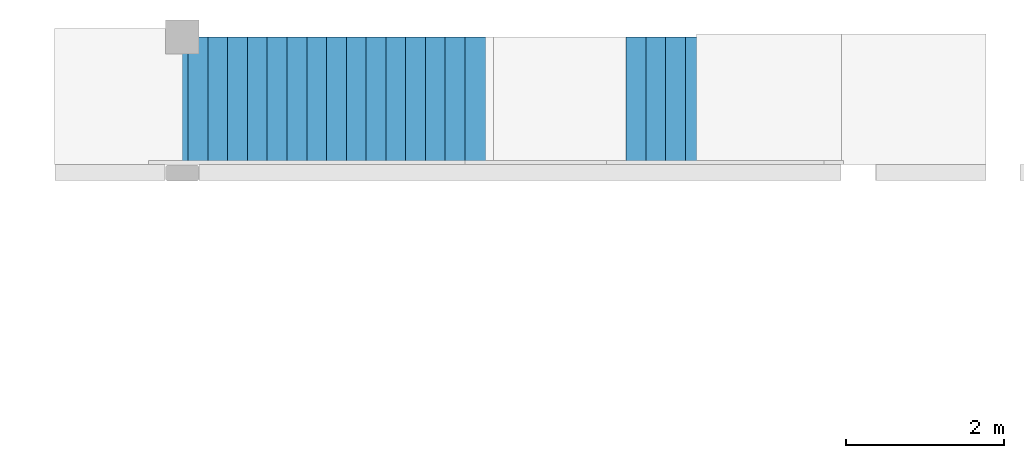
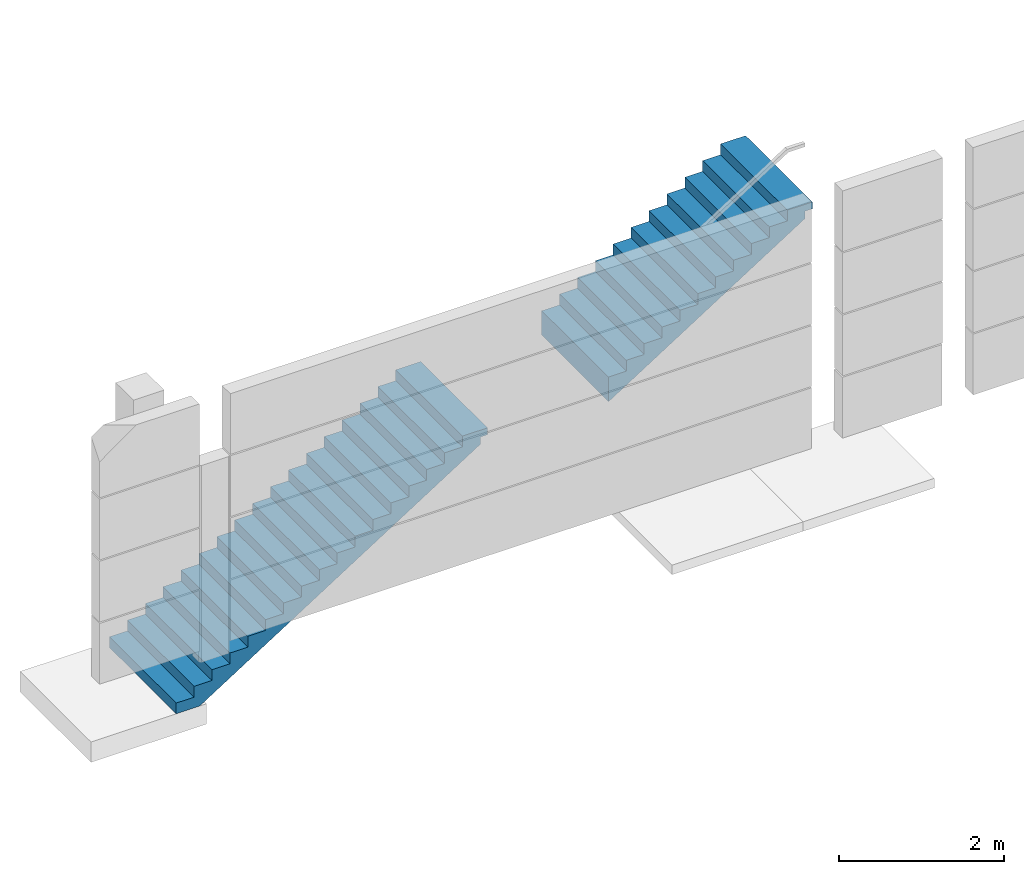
# One storey, part 3 of 5: 2 stair flights, 1 element without a shape of its own.
"""IFC2X3 building model written with IfcOpenShell, lengths in millimetres."""

from ifc_helpers import new_model, entity, si_unit, converted_unit, derived_unit, direction, frame, origin, place, context, subcontext, project, spatial, faceted_brep, material, type_object, element, aggregate, save


model = new_model("IFC2X3")

# Units and contexts
model_context = context("Model", 3, precision=0.01, world=origin(), true_north=direction((6.12303176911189e-17, 1.0)))
body_context = subcontext(model_context, "Body", "Model", "MODEL_VIEW")
ifc_project = project(units=[si_unit("LENGTHUNIT", "METRE", prefix="MILLI"), si_unit("AREAUNIT", "SQUARE_METRE"), si_unit("VOLUMEUNIT", "CUBIC_METRE"), converted_unit("PLANEANGLEUNIT", "DEGREE", entity("IfcRatioMeasure", 0.0174532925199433), si_unit("PLANEANGLEUNIT", "RADIAN"), dimensions=[0, 0, 0, 0, 0, 0, 0]), si_unit("MASSUNIT", "GRAM", prefix="KILO"), derived_unit("MASSDENSITYUNIT", [(si_unit("MASSUNIT", "GRAM", prefix="KILO"), 1), (si_unit("LENGTHUNIT", "METRE"), -3)]), derived_unit("MOMENTOFINERTIAUNIT", [(si_unit("LENGTHUNIT", "METRE"), 4)]), si_unit("TIMEUNIT", "SECOND"), si_unit("FREQUENCYUNIT", "HERTZ"), si_unit("THERMODYNAMICTEMPERATUREUNIT", "DEGREE_CELSIUS"), derived_unit("THERMALTRANSMITTANCEUNIT", [(si_unit("MASSUNIT", "GRAM", prefix="KILO"), 1), (si_unit("THERMODYNAMICTEMPERATUREUNIT", "KELVIN"), -1), (si_unit("TIMEUNIT", "SECOND"), -3)]), derived_unit("VOLUMETRICFLOWRATEUNIT", [(si_unit("LENGTHUNIT", "METRE"), 3), (si_unit("TIMEUNIT", "SECOND"), -1)]), si_unit("ELECTRICCURRENTUNIT", "AMPERE"), si_unit("ELECTRICVOLTAGEUNIT", "VOLT"), si_unit("POWERUNIT", "WATT"), si_unit("FORCEUNIT", "NEWTON", prefix="KILO"), si_unit("ILLUMINANCEUNIT", "LUX"), si_unit("LUMINOUSFLUXUNIT", "LUMEN"), si_unit("LUMINOUSINTENSITYUNIT", "CANDELA"), derived_unit("USERDEFINED", [(si_unit("MASSUNIT", "GRAM", prefix="KILO"), -1), (si_unit("LENGTHUNIT", "METRE"), -2), (si_unit("TIMEUNIT", "SECOND"), 3), (si_unit("LUMINOUSFLUXUNIT", "LUMEN"), 1)]), derived_unit("LINEARVELOCITYUNIT", [(si_unit("LENGTHUNIT", "METRE"), 1), (si_unit("TIMEUNIT", "SECOND"), -1)]), si_unit("PRESSUREUNIT", "PASCAL"), derived_unit("USERDEFINED", [(si_unit("LENGTHUNIT", "METRE"), -2), (si_unit("MASSUNIT", "GRAM", prefix="KILO"), 1), (si_unit("TIMEUNIT", "SECOND"), -2)]), derived_unit("LINEARFORCEUNIT", [(si_unit("MASSUNIT", "GRAM", prefix="KILO"), 1), (si_unit("LENGTHUNIT", "METRE"), 1), (si_unit("TIMEUNIT", "SECOND"), -2), (si_unit("LENGTHUNIT", "METRE"), -1)]), derived_unit("PLANARFORCEUNIT", [(si_unit("MASSUNIT", "GRAM", prefix="KILO"), 1), (si_unit("LENGTHUNIT", "METRE"), 1), (si_unit("TIMEUNIT", "SECOND"), -2), (si_unit("LENGTHUNIT", "METRE"), -2)])], contexts=[model_context])

# Site, building, storey
site_placement = place(None, frame((10627.5135316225, 21939.0796949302, 0.0)))
site = spatial("IfcSite", under=ifc_project, at=site_placement, Name="Default", CompositionType="ELEMENT")
building_placement = place(site_placement, origin())
building = spatial("IfcBuilding", under=site, at=building_placement, CompositionType="ELEMENT")
storey_placement = place(building_placement, origin())
storey = spatial("IfcBuildingStorey", under=building, at=storey_placement, Name="RDC", CompositionType="ELEMENT", Elevation=0.0)

# Stair, stair flights
stair_placement = place(storey_placement, origin())
stair = element("IfcStair", 1, at=stair_placement, inside=storey, Name="Precast Stair:Stair", ObjectType="Precast Stair:Precast_Stair", ShapeType="TWO_STRAIGHT_RUN_STAIR")
ifc_material = material(Name="Concrete, Cast-in-Place gray")
stair_flight_type_1 = type_object("IfcStairFlightType", Name="Monolithic Run:1mm_Tread-175mm_Depth", PredefinedType="STRAIGHT")
stair_flight_1_placement = place(stair_placement, frame((-9222.51353162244, 16695.9203050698, 0.0)))
stair_flight_1 = element("IfcStairFlight", 2, at=stair_flight_1_placement, type_object=stair_flight_type_1, material=ifc_material, Name="Precast Stair:Stair:490853 Run 1", ObjectType="Monolithic Run:1mm_Tread-175mm_Depth", NumberOfRiser=17, NumberOfTreads=17, RiserHeight=0.521540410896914, TreadLength=0.820209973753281, context=body_context, shape_type="Brep", body=[
    faceted_brep([(250.0, 1615.0, -641.034482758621), (0.0, 1615.0, -641.034482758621), (0.0, 0.0, -641.034482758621), (250.0, 0.0, -641.034482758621), (250.0, 1615.0, -642.034482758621), (250.0, 0.0, -642.034482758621), (0.0, 0.0, -642.034482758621), (0.0, 1615.0, -642.034482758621)], [[[0, 1, 2, 3]], [[4, 5, 6, 7]], [[1, 0, 4, 7]], [[2, 1, 7, 6]], [[3, 2, 6, 5]], [[0, 3, 5, 4]]]),
    faceted_brep([(500.0, 1615.0, -482.068965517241), (250.0, 1615.0, -482.068965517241), (250.0, 0.0, -482.068965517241), (500.0, 0.0, -482.068965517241), (500.0, 1615.0, -483.068965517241), (500.0, 0.0, -483.068965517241), (250.0, 0.0, -483.068965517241), (250.0, 1615.0, -483.068965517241)], [[[0, 1, 2, 3]], [[4, 5, 6, 7]], [[1, 0, 4, 7]], [[2, 1, 7, 6]], [[3, 2, 6, 5]], [[0, 3, 5, 4]]]),
    faceted_brep([(750.0, 1615.0, -323.103448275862), (500.0, 1615.0, -323.103448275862), (500.0, 0.0, -323.103448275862), (750.0, 0.0, -323.103448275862), (750.0, 1615.0, -324.103448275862), (750.0, 0.0, -324.103448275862), (500.0, 0.0, -324.103448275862), (500.0, 1615.0, -324.103448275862)], [[[0, 1, 2, 3]], [[4, 5, 6, 7]], [[1, 0, 4, 7]], [[2, 1, 7, 6]], [[3, 2, 6, 5]], [[0, 3, 5, 4]]]),
    faceted_brep([(1000.0, 1615.0, -164.137931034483), (750.0, 1615.0, -164.137931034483), (750.0, 0.0, -164.137931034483), (1000.0, 0.0, -164.137931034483), (1000.0, 1615.0, -165.137931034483), (1000.0, 0.0, -165.137931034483), (750.0, 0.0, -165.137931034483), (750.0, 1615.0, -165.137931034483)], [[[0, 1, 2, 3]], [[4, 5, 6, 7]], [[1, 0, 4, 7]], [[2, 1, 7, 6]], [[3, 2, 6, 5]], [[0, 3, 5, 4]]]),
    faceted_brep([(1250.0, 1615.0, -5.17241379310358), (1000.0, 1615.0, -5.17241379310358), (1000.0, 0.0, -5.17241379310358), (1250.0, 0.0, -5.17241379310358), (1250.0, 1615.0, -6.17241379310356), (1250.0, 0.0, -6.17241379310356), (1000.0, 0.0, -6.17241379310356), (1000.0, 1615.0, -6.17241379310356)], [[[0, 1, 2, 3]], [[4, 5, 6, 7]], [[1, 0, 4, 7]], [[2, 1, 7, 6]], [[3, 2, 6, 5]], [[0, 3, 5, 4]]]),
    faceted_brep([(1500.0, 1615.0, 153.793103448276), (1250.0, 1615.0, 153.793103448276), (1250.0, 0.0, 153.793103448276), (1500.0, 0.0, 153.793103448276), (1500.0, 1615.0, 152.793103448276), (1500.0, 0.0, 152.793103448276), (1250.0, 0.0, 152.793103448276), (1250.0, 1615.0, 152.793103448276)], [[[0, 1, 2, 3]], [[4, 5, 6, 7]], [[1, 0, 4, 7]], [[2, 1, 7, 6]], [[3, 2, 6, 5]], [[0, 3, 5, 4]]]),
    faceted_brep([(1750.0, 1615.0, 312.758620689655), (1500.0, 1615.0, 312.758620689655), (1500.0, 0.0, 312.758620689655), (1750.0, 0.0, 312.758620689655), (1750.0, 1615.0, 311.758620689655), (1750.0, 0.0, 311.758620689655), (1500.0, 0.0, 311.758620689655), (1500.0, 1615.0, 311.758620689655)], [[[0, 1, 2, 3]], [[4, 5, 6, 7]], [[1, 0, 4, 7]], [[2, 1, 7, 6]], [[3, 2, 6, 5]], [[0, 3, 5, 4]]]),
    faceted_brep([(2000.0, 1615.0, 471.724137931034), (1750.0, 1615.0, 471.724137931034), (1750.0, 0.0, 471.724137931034), (2000.0, 0.0, 471.724137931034), (2000.0, 1615.0, 470.724137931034), (2000.0, 0.0, 470.724137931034), (1750.0, 0.0, 470.724137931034), (1750.0, 1615.0, 470.724137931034)], [[[0, 1, 2, 3]], [[4, 5, 6, 7]], [[1, 0, 4, 7]], [[2, 1, 7, 6]], [[3, 2, 6, 5]], [[0, 3, 5, 4]]]),
    faceted_brep([(2250.0, 1615.0, 630.689655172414), (2000.0, 1615.0, 630.689655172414), (2000.0, 0.0, 630.689655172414), (2250.0, 0.0, 630.689655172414), (2250.0, 1615.0, 629.689655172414), (2250.0, 0.0, 629.689655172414), (2000.0, 0.0, 629.689655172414), (2000.0, 1615.0, 629.689655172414)], [[[0, 1, 2, 3]], [[4, 5, 6, 7]], [[1, 0, 4, 7]], [[2, 1, 7, 6]], [[3, 2, 6, 5]], [[0, 3, 5, 4]]]),
    faceted_brep([(2500.0, 1615.0, 789.655172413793), (2250.0, 1615.0, 789.655172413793), (2250.0, 0.0, 789.655172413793), (2500.0, 0.0, 789.655172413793), (2500.0, 1615.0, 788.655172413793), (2500.0, 0.0, 788.655172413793), (2250.0, 0.0, 788.655172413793), (2250.0, 1615.0, 788.655172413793)], [[[0, 1, 2, 3]], [[4, 5, 6, 7]], [[1, 0, 4, 7]], [[2, 1, 7, 6]], [[3, 2, 6, 5]], [[0, 3, 5, 4]]]),
    faceted_brep([(2750.0, 1615.0, 948.620689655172), (2500.0, 1615.0, 948.620689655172), (2500.0, 0.0, 948.620689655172), (2750.0, 0.0, 948.620689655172), (2750.0, 1615.0, 947.620689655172), (2750.0, 0.0, 947.620689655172), (2500.0, 0.0, 947.620689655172), (2500.0, 1615.0, 947.620689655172)], [[[0, 1, 2, 3]], [[4, 5, 6, 7]], [[1, 0, 4, 7]], [[2, 1, 7, 6]], [[3, 2, 6, 5]], [[0, 3, 5, 4]]]),
    faceted_brep([(3000.0, 1615.0, 1107.58620689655), (2750.0, 1615.0, 1107.58620689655), (2750.0, 0.0, 1107.58620689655), (3000.0, 0.0, 1107.58620689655), (3000.0, 1615.0, 1106.58620689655), (3000.0, 0.0, 1106.58620689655), (2750.0, 0.0, 1106.58620689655), (2750.0, 1615.0, 1106.58620689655)], [[[0, 1, 2, 3]], [[4, 5, 6, 7]], [[1, 0, 4, 7]], [[2, 1, 7, 6]], [[3, 2, 6, 5]], [[0, 3, 5, 4]]]),
    faceted_brep([(3250.0, 1615.0, 1266.55172413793), (3000.0, 1615.0, 1266.55172413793), (3000.0, 0.0, 1266.55172413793), (3250.0, 0.0, 1266.55172413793), (3250.0, 1615.0, 1265.55172413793), (3250.0, 0.0, 1265.55172413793), (3000.0, 0.0, 1265.55172413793), (3000.0, 1615.0, 1265.55172413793)], [[[0, 1, 2, 3]], [[4, 5, 6, 7]], [[1, 0, 4, 7]], [[2, 1, 7, 6]], [[3, 2, 6, 5]], [[0, 3, 5, 4]]]),
    faceted_brep([(3500.0, 1615.0, 1425.51724137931), (3250.0, 1615.0, 1425.51724137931), (3250.0, 0.0, 1425.51724137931), (3500.0, 0.0, 1425.51724137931), (3500.0, 1615.0, 1424.51724137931), (3500.0, 0.0, 1424.51724137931), (3250.0, 0.0, 1424.51724137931), (3250.0, 1615.0, 1424.51724137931)], [[[0, 1, 2, 3]], [[4, 5, 6, 7]], [[1, 0, 4, 7]], [[2, 1, 7, 6]], [[3, 2, 6, 5]], [[0, 3, 5, 4]]]),
    faceted_brep([(3750.0, 1615.0, 1584.48275862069), (3500.0, 1615.0, 1584.48275862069), (3500.0, 0.0, 1584.48275862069), (3750.0, 0.0, 1584.48275862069), (3750.0, 1615.0, 1583.48275862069), (3750.0, 0.0, 1583.48275862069), (3500.0, 0.0, 1583.48275862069), (3500.0, 1615.0, 1583.48275862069)], [[[0, 1, 2, 3]], [[4, 5, 6, 7]], [[1, 0, 4, 7]], [[2, 1, 7, 6]], [[3, 2, 6, 5]], [[0, 3, 5, 4]]]),
    faceted_brep([(4000.0, 1615.0, 1743.44827586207), (3750.0, 1615.0, 1743.44827586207), (3750.0, 0.0, 1743.44827586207), (4000.0, 0.0, 1743.44827586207), (4000.0, 1615.0, 1742.44827586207), (4000.0, 0.0, 1742.44827586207), (3750.0, 0.0, 1742.44827586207), (3750.0, 1615.0, 1742.44827586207)], [[[0, 1, 2, 3]], [[4, 5, 6, 7]], [[1, 0, 4, 7]], [[2, 1, 7, 6]], [[3, 2, 6, 5]], [[0, 3, 5, 4]]]),
    faceted_brep([(4350.0, 1615.0, 1902.41379310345), (4250.0, 1615.0, 1902.41379310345), (4000.0, 1615.0, 1902.41379310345), (4000.0, 0.0, 1902.41379310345), (4250.0, 0.0, 1902.41379310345), (4350.0, 0.0, 1902.41379310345), (4350.0, 1615.0, 1901.41379310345), (4350.0, 0.0, 1901.41379310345), (4250.0, 0.0, 1901.41379310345), (4000.0, 0.0, 1901.41379310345), (4000.0, 1615.0, 1901.41379310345), (4250.0, 1615.0, 1901.41379310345)], [[[0, 1, 2, 3, 4, 5]], [[6, 7, 8, 9, 10, 11]], [[1, 0, 6, 11]], [[2, 1, 11, 10]], [[3, 2, 10, 9]], [[4, 3, 9, 8]], [[5, 4, 8, 7]], [[0, 5, 7, 6]]]),
    faceted_brep([(250.0, 1615.0, -642.034482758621), (0.0, 1615.0, -642.034482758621), (0.0, 0.0, -642.034482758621), (250.0, 0.0, -642.034482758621), (250.0, 1615.0, -800.0), (0.0, 1615.0, -800.0), (0.0, 0.0, -800.0), (250.0, 0.0, -800.0), (500.0, 1615.0, -483.068965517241), (250.0, 1615.0, -483.068965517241), (250.0, 0.0, -483.068965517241), (500.0, 0.0, -483.068965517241), (500.0, 1615.0, -690.451022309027), (327.715815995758, 1615.0, -800.0), (327.715815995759, 0.0, -800.0), (500.0, 0.0, -690.451022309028), (750.0, 1615.0, -324.103448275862), (500.0, 1615.0, -324.103448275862), (500.0, 0.0, -324.103448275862), (750.0, 0.0, -324.103448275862), (750.0, 1615.0, -531.485505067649), (750.0, 0.0, -531.485505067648), (1000.0, 1615.0, -165.137931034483), (750.0, 1615.0, -165.137931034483), (750.0, 0.0, -165.137931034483), (1000.0, 0.0, -165.137931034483), (1000.0, 1615.0, -372.519987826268), (1000.0, 0.0, -372.519987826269), (1250.0, 1615.0, -6.17241379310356), (1000.0, 1615.0, -6.17241379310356), (1000.0, 0.0, -6.17241379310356), (1250.0, 0.0, -6.17241379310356), (1250.0, 1615.0, -213.55447058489), (1250.0, 0.0, -213.55447058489), (1500.0, 1615.0, 152.793103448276), (1250.0, 1615.0, 152.793103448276), (1250.0, 0.0, 152.793103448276), (1500.0, 0.0, 152.793103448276), (1500.0, 1615.0, -54.58895334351), (1500.0, 0.0, -54.5889533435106), (1750.0, 1615.0, 311.758620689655), (1500.0, 1615.0, 311.758620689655), (1500.0, 0.0, 311.758620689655), (1750.0, 0.0, 311.758620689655), (1750.0, 1615.0, 104.37656389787), (1750.0, 0.0, 104.376563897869), (2000.0, 1615.0, 470.724137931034), (1750.0, 1615.0, 470.724137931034), (1750.0, 0.0, 470.724137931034), (2000.0, 0.0, 470.724137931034), (2000.0, 1615.0, 263.342081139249), (2000.0, 0.0, 263.342081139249), (2250.0, 1615.0, 629.689655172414), (2000.0, 1615.0, 629.689655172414), (2000.0, 0.0, 629.689655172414), (2250.0, 0.0, 629.689655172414), (2250.0, 1615.0, 422.307598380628), (2250.0, 0.0, 422.307598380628), (2500.0, 1615.0, 788.655172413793), (2250.0, 1615.0, 788.655172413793), (2250.0, 0.0, 788.655172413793), (2500.0, 0.0, 788.655172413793), (2500.0, 1615.0, 581.273115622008), (2500.0, 0.0, 581.273115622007), (2750.0, 1615.0, 947.620689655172), (2500.0, 1615.0, 947.620689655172), (2500.0, 0.0, 947.620689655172), (2750.0, 0.0, 947.620689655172), (2750.0, 1615.0, 740.238632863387), (2750.0, 0.0, 740.238632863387), (3000.0, 1615.0, 1106.58620689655), (2750.0, 1615.0, 1106.58620689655), (2750.0, 0.0, 1106.58620689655), (3000.0, 0.0, 1106.58620689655), (3000.0, 1615.0, 899.204150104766), (3000.0, 0.0, 899.204150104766), (3250.0, 1615.0, 1265.55172413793), (3000.0, 1615.0, 1265.55172413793), (3000.0, 0.0, 1265.55172413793), (3250.0, 0.0, 1265.55172413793), (3250.0, 1615.0, 1058.16966734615), (3250.0, 0.0, 1058.16966734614), (3500.0, 1615.0, 1424.51724137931), (3250.0, 1615.0, 1424.51724137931), (3250.0, 0.0, 1424.51724137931), (3500.0, 0.0, 1424.51724137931), (3500.0, 1615.0, 1217.13518458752), (3500.0, 0.0, 1217.13518458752), (3750.0, 1615.0, 1583.48275862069), (3500.0, 1615.0, 1583.48275862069), (3500.0, 0.0, 1583.48275862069), (3750.0, 0.0, 1583.48275862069), (3750.0, 1615.0, 1376.1007018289), (3750.0, 0.0, 1376.1007018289), (4000.0, 1615.0, 1535.06621907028), (4250.0, 1615.0, 1694.03173631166), (4250.0, 0.0, 1694.03173631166), (4000.0, 0.0, 1535.06621907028), (4350.0, 0.0, 1801.41379310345), (4250.0, 0.0, 1801.41379310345), (4250.0, 1615.0, 1801.41379310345), (4350.0, 1615.0, 1801.41379310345), (4350.0, 1615.0, 1901.41379310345), (4350.0, 0.0, 1901.41379310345), (4000.0, 1615.0, 1742.44827586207), (3750.0, 1615.0, 1742.44827586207), (3750.0, 0.0, 1742.44827586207), (4000.0, 0.0, 1742.44827586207), (4000.0, 1615.0, 1901.41379310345), (4000.0, 0.0, 1901.41379310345)], [[[0, 1, 2, 3]], [[1, 0, 4, 5]], [[2, 1, 5, 6]], [[3, 2, 6, 7]], [[8, 9, 10, 11]], [[4, 0, 9, 8, 12, 13]], [[0, 3, 10, 9]], [[3, 7, 14, 15, 11, 10]], [[16, 17, 18, 19]], [[17, 16, 20, 12, 8]], [[8, 11, 18, 17]], [[19, 18, 11, 15, 21]], [[22, 23, 24, 25]], [[23, 22, 26, 20, 16]], [[16, 19, 24, 23]], [[25, 24, 19, 21, 27]], [[28, 29, 30, 31]], [[29, 28, 32, 26, 22]], [[22, 25, 30, 29]], [[31, 30, 25, 27, 33]], [[34, 35, 36, 37]], [[35, 34, 38, 32, 28]], [[28, 31, 36, 35]], [[37, 36, 31, 33, 39]], [[40, 41, 42, 43]], [[41, 40, 44, 38, 34]], [[34, 37, 42, 41]], [[43, 42, 37, 39, 45]], [[46, 47, 48, 49]], [[47, 46, 50, 44, 40]], [[40, 43, 48, 47]], [[49, 48, 43, 45, 51]], [[52, 53, 54, 55]], [[53, 52, 56, 50, 46]], [[46, 49, 54, 53]], [[55, 54, 49, 51, 57]], [[58, 59, 60, 61]], [[59, 58, 62, 56, 52]], [[52, 55, 60, 59]], [[61, 60, 55, 57, 63]], [[64, 65, 66, 67]], [[65, 64, 68, 62, 58]], [[58, 61, 66, 65]], [[67, 66, 61, 63, 69]], [[70, 71, 72, 73]], [[71, 70, 74, 68, 64]], [[64, 67, 72, 71]], [[73, 72, 67, 69, 75]], [[76, 77, 78, 79]], [[77, 76, 80, 74, 70]], [[70, 73, 78, 77]], [[79, 78, 73, 75, 81]], [[82, 83, 84, 85]], [[83, 82, 86, 80, 76]], [[76, 79, 84, 83]], [[85, 84, 79, 81, 87]], [[88, 89, 90, 91]], [[89, 88, 92, 86, 82]], [[82, 85, 90, 89]], [[91, 90, 85, 87, 93]], [[5, 4, 13, 14, 7, 6]], [[14, 13, 12, 20, 26, 32, 38, 44, 50, 56, 62, 68, 74, 80, 86, 92, 94, 95, 96, 97, 93, 87, 81, 75, 69, 63, 57, 51, 45, 39, 33, 27, 21, 15]], [[98, 99, 100, 101]], [[98, 101, 102, 103]], [[104, 105, 106, 107]], [[105, 104, 94, 92, 88]], [[88, 91, 106, 105]], [[107, 106, 91, 93, 97]], [[108, 109, 103, 102]], [[108, 102, 101, 100, 95, 94, 104]], [[104, 107, 109, 108]], [[103, 109, 107, 97, 96, 99, 98]], [[96, 95, 100, 99]]]),
])
stair_flight_type_2 = type_object("IfcStairFlightType", Name="Monolithic Run:1mm_Tread-175mm_Depth", PredefinedType="STRAIGHT")
stair_flight_2_placement = place(stair_placement, frame((-3182.51353162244, 16695.9203050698, 0.0)))
stair_flight_2 = element("IfcStairFlight", 3, at=stair_flight_2_placement, type_object=stair_flight_type_2, material=ifc_material, Name="Precast Stair:Stair:490853 Run 2", ObjectType="Monolithic Run:1mm_Tread-175mm_Depth", NumberOfRiser=11, NumberOfTreads=11, RiserHeight=0.521540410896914, TreadLength=0.820209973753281, context=body_context, shape_type="Brep", body=[
    faceted_brep([(250.0, 1615.0, 2061.37931034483), (0.0, 1615.0, 2061.37931034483), (0.0, 0.0, 2061.37931034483), (250.0, 0.0, 2061.37931034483), (250.0, 1615.0, 2060.37931034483), (250.0, 0.0, 2060.37931034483), (0.0, 0.0, 2060.37931034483), (0.0, 1615.0, 2060.37931034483)], [[[0, 1, 2, 3]], [[4, 5, 6, 7]], [[1, 0, 4, 7]], [[2, 1, 7, 6]], [[3, 2, 6, 5]], [[0, 3, 5, 4]]]),
    faceted_brep([(500.0, 1615.0, 2220.34482758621), (250.0, 1615.0, 2220.34482758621), (250.0, 0.0, 2220.34482758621), (500.0, 0.0, 2220.34482758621), (500.0, 1615.0, 2219.34482758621), (500.0, 0.0, 2219.34482758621), (250.0, 0.0, 2219.34482758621), (250.0, 1615.0, 2219.34482758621)], [[[0, 1, 2, 3]], [[4, 5, 6, 7]], [[1, 0, 4, 7]], [[2, 1, 7, 6]], [[3, 2, 6, 5]], [[0, 3, 5, 4]]]),
    faceted_brep([(750.0, 1615.0, 2379.31034482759), (500.0, 1615.0, 2379.31034482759), (500.0, 0.0, 2379.31034482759), (750.0, 0.0, 2379.31034482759), (750.0, 1615.0, 2378.31034482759), (750.0, 0.0, 2378.31034482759), (500.0, 0.0, 2378.31034482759), (500.0, 1615.0, 2378.31034482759)], [[[0, 1, 2, 3]], [[4, 5, 6, 7]], [[1, 0, 4, 7]], [[2, 1, 7, 6]], [[3, 2, 6, 5]], [[0, 3, 5, 4]]]),
    faceted_brep([(1000.0, 1615.0, 2538.27586206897), (750.0, 1615.0, 2538.27586206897), (750.0, 0.0, 2538.27586206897), (1000.0, 0.0, 2538.27586206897), (1000.0, 1615.0, 2537.27586206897), (1000.0, 0.0, 2537.27586206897), (750.0, 0.0, 2537.27586206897), (750.0, 1615.0, 2537.27586206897)], [[[0, 1, 2, 3]], [[4, 5, 6, 7]], [[1, 0, 4, 7]], [[2, 1, 7, 6]], [[3, 2, 6, 5]], [[0, 3, 5, 4]]]),
    faceted_brep([(1250.0, 1615.0, 2697.24137931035), (1000.0, 1615.0, 2697.24137931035), (1000.0, 0.0, 2697.24137931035), (1250.0, 0.0, 2697.24137931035), (1250.0, 1615.0, 2696.24137931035), (1250.0, 0.0, 2696.24137931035), (1000.0, 0.0, 2696.24137931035), (1000.0, 1615.0, 2696.24137931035)], [[[0, 1, 2, 3]], [[4, 5, 6, 7]], [[1, 0, 4, 7]], [[2, 1, 7, 6]], [[3, 2, 6, 5]], [[0, 3, 5, 4]]]),
    faceted_brep([(1500.0, 1615.0, 2856.20689655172), (1250.0, 1615.0, 2856.20689655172), (1250.0, 0.0, 2856.20689655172), (1500.0, 0.0, 2856.20689655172), (1500.0, 1615.0, 2855.20689655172), (1500.0, 0.0, 2855.20689655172), (1250.0, 0.0, 2855.20689655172), (1250.0, 1615.0, 2855.20689655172)], [[[0, 1, 2, 3]], [[4, 5, 6, 7]], [[1, 0, 4, 7]], [[2, 1, 7, 6]], [[3, 2, 6, 5]], [[0, 3, 5, 4]]]),
    faceted_brep([(1750.0, 1615.0, 3015.1724137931), (1500.0, 1615.0, 3015.1724137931), (1500.0, 0.0, 3015.1724137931), (1750.0, 0.0, 3015.1724137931), (1750.0, 1615.0, 3014.1724137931), (1750.0, 0.0, 3014.1724137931), (1500.0, 0.0, 3014.1724137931), (1500.0, 1615.0, 3014.1724137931)], [[[0, 1, 2, 3]], [[4, 5, 6, 7]], [[1, 0, 4, 7]], [[2, 1, 7, 6]], [[3, 2, 6, 5]], [[0, 3, 5, 4]]]),
    faceted_brep([(2000.0, 1615.0, 3174.13793103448), (1750.0, 1615.0, 3174.13793103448), (1750.0, 0.0, 3174.13793103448), (2000.0, 0.0, 3174.13793103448), (2000.0, 1615.0, 3173.13793103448), (2000.0, 0.0, 3173.13793103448), (1750.0, 0.0, 3173.13793103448), (1750.0, 1615.0, 3173.13793103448)], [[[0, 1, 2, 3]], [[4, 5, 6, 7]], [[1, 0, 4, 7]], [[2, 1, 7, 6]], [[3, 2, 6, 5]], [[0, 3, 5, 4]]]),
    faceted_brep([(2250.0, 1615.0, 3333.10344827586), (2000.0, 1615.0, 3333.10344827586), (2000.0, 0.0, 3333.10344827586), (2250.0, 0.0, 3333.10344827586), (2250.0, 1615.0, 3332.10344827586), (2250.0, 0.0, 3332.10344827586), (2000.0, 0.0, 3332.10344827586), (2000.0, 1615.0, 3332.10344827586)], [[[0, 1, 2, 3]], [[4, 5, 6, 7]], [[1, 0, 4, 7]], [[2, 1, 7, 6]], [[3, 2, 6, 5]], [[0, 3, 5, 4]]]),
    faceted_brep([(2500.0, 1615.0, 3492.06896551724), (2250.0, 1615.0, 3492.06896551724), (2250.0, 0.0, 3492.06896551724), (2500.0, 0.0, 3492.06896551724), (2500.0, 1615.0, 3491.06896551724), (2500.0, 0.0, 3491.06896551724), (2250.0, 0.0, 3491.06896551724), (2250.0, 1615.0, 3491.06896551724)], [[[0, 1, 2, 3]], [[4, 5, 6, 7]], [[1, 0, 4, 7]], [[2, 1, 7, 6]], [[3, 2, 6, 5]], [[0, 3, 5, 4]]]),
    faceted_brep([(2850.0, 1615.0, 3651.03448275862), (2500.0, 1615.0, 3651.03448275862), (2500.0, 0.0, 3651.03448275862), (2850.0, 0.0, 3651.03448275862), (2850.0, 1615.0, 3650.03448275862), (2850.0, 0.0, 3650.03448275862), (2500.0, 0.0, 3650.03448275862), (2500.0, 1615.0, 3650.03448275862)], [[[0, 1, 2, 3]], [[4, 5, 6, 7]], [[1, 0, 4, 7]], [[2, 1, 7, 6]], [[3, 2, 6, 5]], [[0, 3, 5, 4]]]),
    faceted_brep([(0.0, 1615.0, 2060.37931034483), (0.0, 0.0, 2060.37931034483), (11.6095253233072, 0.0, 2060.37931034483), (250.0, 0.0, 2060.37931034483), (250.0, 1615.0, 2060.37931034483), (11.6095253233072, 1615.0, 2060.37931034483), (250.0, 1615.0, 1852.99725355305), (11.6095253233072, 1615.0, 1701.41379310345), (0.0, 1615.0, 1701.41379310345), (0.0, 0.0, 1701.41379310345), (11.6095253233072, 0.0, 1701.41379310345), (250.0, 0.0, 1852.99725355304), (500.0, 1615.0, 2219.34482758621), (250.0, 1615.0, 2219.34482758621), (250.0, 0.0, 2219.34482758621), (500.0, 0.0, 2219.34482758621), (500.0, 1615.0, 2011.96277079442), (500.0, 0.0, 2011.96277079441), (750.0, 1615.0, 2378.31034482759), (500.0, 1615.0, 2378.31034482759), (500.0, 0.0, 2378.31034482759), (750.0, 0.0, 2378.31034482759), (750.0, 1615.0, 2170.9282880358), (750.0, 0.0, 2170.92828803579), (1000.0, 1615.0, 2537.27586206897), (750.0, 1615.0, 2537.27586206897), (750.0, 0.0, 2537.27586206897), (1000.0, 0.0, 2537.27586206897), (1000.0, 1615.0, 2329.89380527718), (1000.0, 0.0, 2329.89380527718), (1250.0, 1615.0, 2696.24137931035), (1000.0, 1615.0, 2696.24137931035), (1000.0, 0.0, 2696.24137931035), (1250.0, 0.0, 2696.24137931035), (1250.0, 1615.0, 2488.85932251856), (1250.0, 0.0, 2488.85932251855), (1500.0, 1615.0, 2855.20689655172), (1250.0, 1615.0, 2855.20689655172), (1250.0, 0.0, 2855.20689655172), (1500.0, 0.0, 2855.20689655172), (1500.0, 1615.0, 2647.82483975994), (1500.0, 0.0, 2647.82483975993), (1750.0, 1615.0, 3014.1724137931), (1500.0, 1615.0, 3014.1724137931), (1500.0, 0.0, 3014.1724137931), (1750.0, 0.0, 3014.1724137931), (1750.0, 1615.0, 2806.79035700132), (1750.0, 0.0, 2806.79035700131), (2000.0, 1615.0, 3173.13793103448), (1750.0, 1615.0, 3173.13793103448), (1750.0, 0.0, 3173.13793103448), (2000.0, 0.0, 3173.13793103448), (2000.0, 1615.0, 2965.7558742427), (2000.0, 0.0, 2965.75587424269), (2250.0, 1615.0, 3332.10344827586), (2000.0, 1615.0, 3332.10344827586), (2000.0, 0.0, 3332.10344827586), (2250.0, 0.0, 3332.10344827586), (2250.0, 1615.0, 3124.72139148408), (2250.0, 0.0, 3124.72139148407), (2500.0, 1615.0, 3491.06896551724), (2250.0, 1615.0, 3491.06896551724), (2250.0, 0.0, 3491.06896551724), (2500.0, 0.0, 3491.06896551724), (2500.0, 1615.0, 3283.68690872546), (2500.0, 0.0, 3283.68690872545), (2500.0, 1615.0, 3650.03448275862), (2500.0, 0.0, 3650.03448275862), (2850.0, 0.0, 3650.03448275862), (2850.0, 1615.0, 3650.03448275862), (2850.0, 1615.0, 3550.03448275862), (2750.0, 1615.0, 3550.03448275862), (2750.0, 1615.0, 3442.65242596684), (2750.0, 0.0, 3442.65242596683), (2750.0, 0.0, 3550.03448275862), (2850.0, 0.0, 3550.03448275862)], [[[0, 1, 2, 3, 4, 5]], [[4, 6, 7, 8, 0, 5]], [[1, 0, 8, 9]], [[1, 9, 10, 11, 3, 2]], [[12, 13, 14, 15]], [[13, 12, 16, 6, 4]], [[14, 13, 4, 3]], [[15, 14, 3, 11, 17]], [[18, 19, 20, 21]], [[19, 18, 22, 16, 12]], [[20, 19, 12, 15]], [[21, 20, 15, 17, 23]], [[24, 25, 26, 27]], [[25, 24, 28, 22, 18]], [[26, 25, 18, 21]], [[27, 26, 21, 23, 29]], [[30, 31, 32, 33]], [[31, 30, 34, 28, 24]], [[32, 31, 24, 27]], [[33, 32, 27, 29, 35]], [[36, 37, 38, 39]], [[37, 36, 40, 34, 30]], [[38, 37, 30, 33]], [[39, 38, 33, 35, 41]], [[42, 43, 44, 45]], [[43, 42, 46, 40, 36]], [[44, 43, 36, 39]], [[45, 44, 39, 41, 47]], [[48, 49, 50, 51]], [[49, 48, 52, 46, 42]], [[50, 49, 42, 45]], [[51, 50, 45, 47, 53]], [[54, 55, 56, 57]], [[55, 54, 58, 52, 48]], [[56, 55, 48, 51]], [[57, 56, 51, 53, 59]], [[60, 61, 62, 63]], [[61, 60, 64, 58, 54]], [[62, 61, 54, 57]], [[63, 62, 57, 59, 65]], [[66, 67, 68, 69]], [[66, 69, 70, 71, 72, 64, 60]], [[67, 66, 60, 63]], [[68, 67, 63, 65, 73, 74, 75]], [[73, 72, 71, 74]], [[10, 7, 6, 16, 22, 28, 34, 40, 46, 52, 58, 64, 72, 73, 65, 59, 53, 47, 41, 35, 29, 23, 17, 11]], [[7, 10, 9, 8]], [[75, 74, 71, 70]], [[75, 70, 69, 68]]]),
])
aggregate(stair, [stair_flight_1, stair_flight_2])

save(model, "model.ifc")
